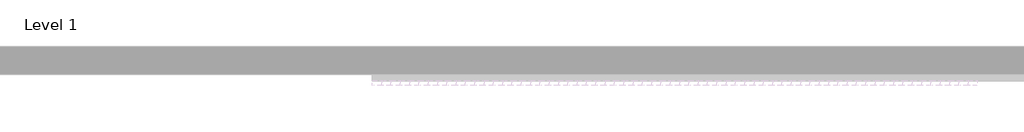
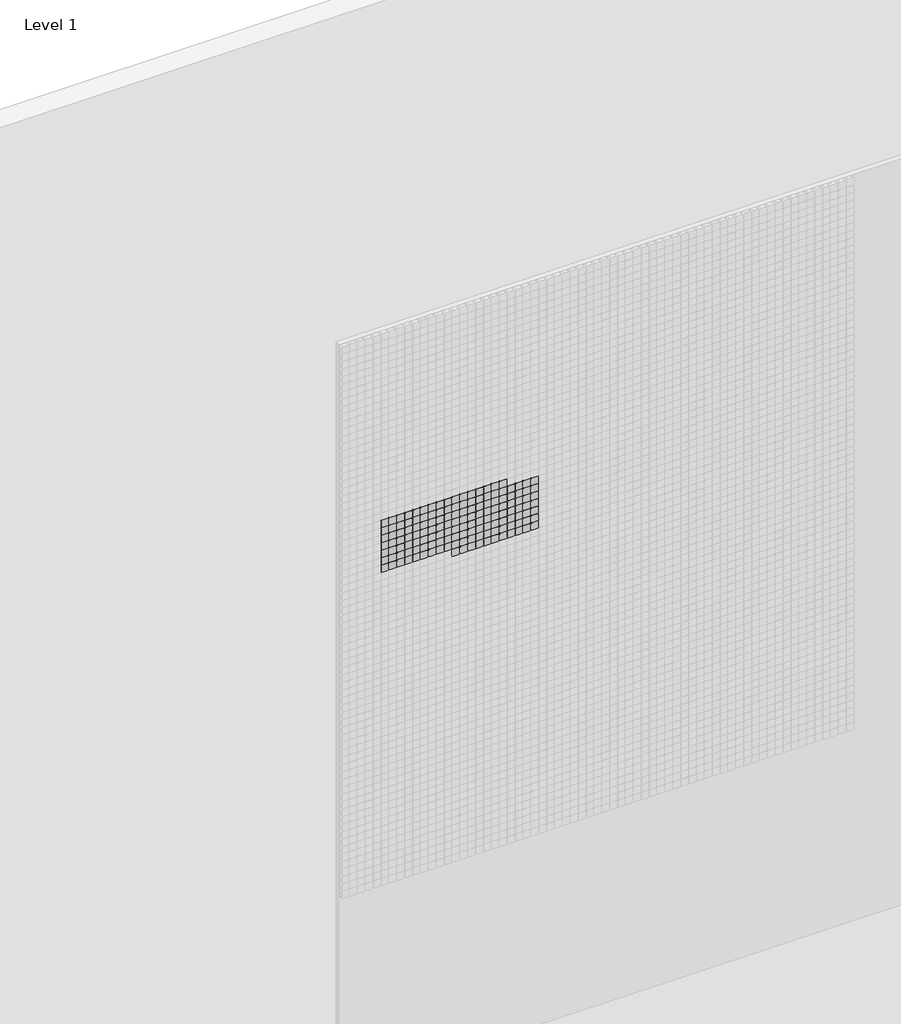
# One storey, part 11 of 71: 147 proxies.
"""IFC4 building model written with IfcOpenShell, lengths in millimetres."""

from ifc_helpers import new_model, si_unit, origin, place, context, project, spatial, transform, mapped, element, save
from components import generic_models_afde289c

model = new_model("IFC4")

# Units and contexts
model_context = context("Model", 3, world=origin())
ifc_project = project(units=[si_unit("LENGTHUNIT", "METRE", prefix="MILLI")], contexts=[model_context])

# Site, building, storey
site = spatial("IfcSite", under=ifc_project)
building = spatial("IfcBuilding", under=site)
storey = spatial("IfcBuildingStorey", under=building, Name="Level 1", Elevation=0.0)

# Proxies
placement = place(None, origin())
generic_models_shape = generic_models_afde289c(model_context)
element("IfcBuildingElementProxy", 1, Name="Pixel_M : Pixel_M", ObjectType="Pixel_M : Pixel_M", at=placement, inside=storey, context=model_context, shape_type="MappedRepresentation", body=[
    mapped(generic_models_shape, transform((5762.4280941, -75.0, 4716.3566215), x_axis=(1.0, 0.0, 0.0), y_axis=(0.0, 0.0, 1.0), z_axis=(0.0, -1.0, 0.0))),
])
element("IfcBuildingElementProxy", 2, Name="Pixel_M : Pixel_M", ObjectType="Pixel_M : Pixel_M", at=placement, inside=storey, context=model_context, shape_type="MappedRepresentation", body=[
    mapped(generic_models_shape, transform((5712.4280941, -75.0, 4716.3566215), x_axis=(1.0, 0.0, 0.0), y_axis=(0.0, 0.0, 1.0), z_axis=(0.0, -1.0, 0.0))),
])
element("IfcBuildingElementProxy", 3, Name="Pixel_M : Pixel_M", ObjectType="Pixel_M : Pixel_M", at=placement, inside=storey, context=model_context, shape_type="MappedRepresentation", body=[
    mapped(generic_models_shape, transform((5662.4280941, -75.0, 4716.3566215), x_axis=(1.0, 0.0, 0.0), y_axis=(0.0, 0.0, 1.0), z_axis=(0.0, -1.0, 0.0))),
])
element("IfcBuildingElementProxy", 4, Name="Pixel_M : Pixel_M", ObjectType="Pixel_M : Pixel_M", at=placement, inside=storey, context=model_context, shape_type="MappedRepresentation", body=[
    mapped(generic_models_shape, transform((5612.4280941, -75.0, 4716.3566215), x_axis=(1.0, 0.0, 0.0), y_axis=(0.0, 0.0, 1.0), z_axis=(0.0, -1.0, 0.0))),
])
element("IfcBuildingElementProxy", 5, Name="Pixel_M : Pixel_M", ObjectType="Pixel_M : Pixel_M", at=placement, inside=storey, context=model_context, shape_type="MappedRepresentation", body=[
    mapped(generic_models_shape, transform((5562.4280941, -75.0, 4716.3566215), x_axis=(1.0, 0.0, 0.0), y_axis=(0.0, 0.0, 1.0), z_axis=(0.0, -1.0, 0.0))),
])
element("IfcBuildingElementProxy", 6, Name="Pixel_M : Pixel_M", ObjectType="Pixel_M : Pixel_M", at=placement, inside=storey, context=model_context, shape_type="MappedRepresentation", body=[
    mapped(generic_models_shape, transform((5512.4280941, -75.0, 4716.3566215), x_axis=(1.0, 0.0, 0.0), y_axis=(0.0, 0.0, 1.0), z_axis=(0.0, -1.0, 0.0))),
])
element("IfcBuildingElementProxy", 7, Name="Pixel_M : Pixel_M", ObjectType="Pixel_M : Pixel_M", at=placement, inside=storey, context=model_context, shape_type="MappedRepresentation", body=[
    mapped(generic_models_shape, transform((5462.4280941, -75.0, 4716.3566215), x_axis=(1.0, 0.0, 0.0), y_axis=(0.0, 0.0, 1.0), z_axis=(0.0, -1.0, 0.0))),
])
element("IfcBuildingElementProxy", 8, Name="Pixel_M : Pixel_M", ObjectType="Pixel_M : Pixel_M", at=placement, inside=storey, context=model_context, shape_type="MappedRepresentation", body=[
    mapped(generic_models_shape, transform((5412.4280941, -75.0, 4716.3566215), x_axis=(1.0, 0.0, 0.0), y_axis=(0.0, 0.0, 1.0), z_axis=(0.0, -1.0, 0.0))),
])
element("IfcBuildingElementProxy", 9, Name="Pixel_M : Pixel_M", ObjectType="Pixel_M : Pixel_M", at=placement, inside=storey, context=model_context, shape_type="MappedRepresentation", body=[
    mapped(generic_models_shape, transform((5362.4280941, -75.0, 4716.3566215), x_axis=(1.0, 0.0, 0.0), y_axis=(0.0, 0.0, 1.0), z_axis=(0.0, -1.0, 0.0))),
])
element("IfcBuildingElementProxy", 10, Name="Pixel_M : Pixel_M", ObjectType="Pixel_M : Pixel_M", at=placement, inside=storey, context=model_context, shape_type="MappedRepresentation", body=[
    mapped(generic_models_shape, transform((5312.4280941, -75.0, 4716.3566215), x_axis=(1.0, 0.0, 0.0), y_axis=(0.0, 0.0, 1.0), z_axis=(0.0, -1.0, 0.0))),
])
element("IfcBuildingElementProxy", 11, Name="Pixel_M : Pixel_M", ObjectType="Pixel_M : Pixel_M", at=placement, inside=storey, context=model_context, shape_type="MappedRepresentation", body=[
    mapped(generic_models_shape, transform((5262.4280941, -75.0, 4716.3566215), x_axis=(1.0, 0.0, 0.0), y_axis=(0.0, 0.0, 1.0), z_axis=(0.0, -1.0, 0.0))),
])
element("IfcBuildingElementProxy", 12, Name="Pixel_M : Pixel_M", ObjectType="Pixel_M : Pixel_M", at=placement, inside=storey, context=model_context, shape_type="MappedRepresentation", body=[
    mapped(generic_models_shape, transform((5212.4280941, -75.0, 4716.3566215), x_axis=(1.0, 0.0, 0.0), y_axis=(0.0, 0.0, 1.0), z_axis=(0.0, -1.0, 0.0))),
])
element("IfcBuildingElementProxy", 13, Name="Pixel_M : Pixel_M", ObjectType="Pixel_M : Pixel_M", at=placement, inside=storey, context=model_context, shape_type="MappedRepresentation", body=[
    mapped(generic_models_shape, transform((5162.4280941, -75.0, 4716.3566215), x_axis=(1.0, 0.0, 0.0), y_axis=(0.0, 0.0, 1.0), z_axis=(0.0, -1.0, 0.0))),
])
element("IfcBuildingElementProxy", 14, Name="Pixel_M : Pixel_M", ObjectType="Pixel_M : Pixel_M", at=placement, inside=storey, context=model_context, shape_type="MappedRepresentation", body=[
    mapped(generic_models_shape, transform((5112.4280941, -75.0, 4716.3566215), x_axis=(1.0, 0.0, 0.0), y_axis=(0.0, 0.0, 1.0), z_axis=(0.0, -1.0, 0.0))),
])
element("IfcBuildingElementProxy", 15, Name="Pixel_M : Pixel_M", ObjectType="Pixel_M : Pixel_M", at=placement, inside=storey, context=model_context, shape_type="MappedRepresentation", body=[
    mapped(generic_models_shape, transform((5062.4280941, -75.0, 4716.3566215), x_axis=(1.0, 0.0, 0.0), y_axis=(0.0, 0.0, 1.0), z_axis=(0.0, -1.0, 0.0))),
])
element("IfcBuildingElementProxy", 16, Name="Pixel_M : Pixel_M", ObjectType="Pixel_M : Pixel_M", at=placement, inside=storey, context=model_context, shape_type="MappedRepresentation", body=[
    mapped(generic_models_shape, transform((5012.4280941, -75.0, 4716.3566215), x_axis=(1.0, 0.0, 0.0), y_axis=(0.0, 0.0, 1.0), z_axis=(0.0, -1.0, 0.0))),
])
element("IfcBuildingElementProxy", 17, Name="Pixel_M : Pixel_M", ObjectType="Pixel_M : Pixel_M", at=placement, inside=storey, context=model_context, shape_type="MappedRepresentation", body=[
    mapped(generic_models_shape, transform((5962.4280941, -75.0, 4666.3566215), x_axis=(1.0, 0.0, 0.0), y_axis=(0.0, 0.0, 1.0), z_axis=(0.0, -1.0, 0.0))),
])
element("IfcBuildingElementProxy", 18, Name="Pixel_M : Pixel_M", ObjectType="Pixel_M : Pixel_M", at=placement, inside=storey, context=model_context, shape_type="MappedRepresentation", body=[
    mapped(generic_models_shape, transform((5912.4280941, -75.0, 4666.3566215), x_axis=(1.0, 0.0, 0.0), y_axis=(0.0, 0.0, 1.0), z_axis=(0.0, -1.0, 0.0))),
])
element("IfcBuildingElementProxy", 19, Name="Pixel_M : Pixel_M", ObjectType="Pixel_M : Pixel_M", at=placement, inside=storey, context=model_context, shape_type="MappedRepresentation", body=[
    mapped(generic_models_shape, transform((5862.4280941, -75.0, 4666.3566215), x_axis=(1.0, 0.0, 0.0), y_axis=(0.0, 0.0, 1.0), z_axis=(0.0, -1.0, 0.0))),
])
element("IfcBuildingElementProxy", 20, Name="Pixel_M : Pixel_M", ObjectType="Pixel_M : Pixel_M", at=placement, inside=storey, context=model_context, shape_type="MappedRepresentation", body=[
    mapped(generic_models_shape, transform((5812.4280941, -75.0, 4666.3566215), x_axis=(1.0, 0.0, 0.0), y_axis=(0.0, 0.0, 1.0), z_axis=(0.0, -1.0, 0.0))),
])
element("IfcBuildingElementProxy", 21, Name="Pixel_M : Pixel_M", ObjectType="Pixel_M : Pixel_M", at=placement, inside=storey, context=model_context, shape_type="MappedRepresentation", body=[
    mapped(generic_models_shape, transform((5762.4280941, -75.0, 4666.3566215), x_axis=(1.0, 0.0, 0.0), y_axis=(0.0, 0.0, 1.0), z_axis=(0.0, -1.0, 0.0))),
])
element("IfcBuildingElementProxy", 22, Name="Pixel_M : Pixel_M", ObjectType="Pixel_M : Pixel_M", at=placement, inside=storey, context=model_context, shape_type="MappedRepresentation", body=[
    mapped(generic_models_shape, transform((5712.4280941, -75.0, 4666.3566215), x_axis=(1.0, 0.0, 0.0), y_axis=(0.0, 0.0, 1.0), z_axis=(0.0, -1.0, 0.0))),
])
element("IfcBuildingElementProxy", 23, Name="Pixel_M : Pixel_M", ObjectType="Pixel_M : Pixel_M", at=placement, inside=storey, context=model_context, shape_type="MappedRepresentation", body=[
    mapped(generic_models_shape, transform((5662.4280941, -75.0, 4666.3566215), x_axis=(1.0, 0.0, 0.0), y_axis=(0.0, 0.0, 1.0), z_axis=(0.0, -1.0, 0.0))),
])
element("IfcBuildingElementProxy", 24, Name="Pixel_M : Pixel_M", ObjectType="Pixel_M : Pixel_M", at=placement, inside=storey, context=model_context, shape_type="MappedRepresentation", body=[
    mapped(generic_models_shape, transform((5612.4280941, -75.0, 4666.3566215), x_axis=(1.0, 0.0, 0.0), y_axis=(0.0, 0.0, 1.0), z_axis=(0.0, -1.0, 0.0))),
])
element("IfcBuildingElementProxy", 25, Name="Pixel_M : Pixel_M", ObjectType="Pixel_M : Pixel_M", at=placement, inside=storey, context=model_context, shape_type="MappedRepresentation", body=[
    mapped(generic_models_shape, transform((5562.4280941, -75.0, 4666.3566215), x_axis=(1.0, 0.0, 0.0), y_axis=(0.0, 0.0, 1.0), z_axis=(0.0, -1.0, 0.0))),
])
element("IfcBuildingElementProxy", 26, Name="Pixel_M : Pixel_M", ObjectType="Pixel_M : Pixel_M", at=placement, inside=storey, context=model_context, shape_type="MappedRepresentation", body=[
    mapped(generic_models_shape, transform((5512.4280941, -75.0, 4666.3566215), x_axis=(1.0, 0.0, 0.0), y_axis=(0.0, 0.0, 1.0), z_axis=(0.0, -1.0, 0.0))),
])
element("IfcBuildingElementProxy", 27, Name="Pixel_M : Pixel_M", ObjectType="Pixel_M : Pixel_M", at=placement, inside=storey, context=model_context, shape_type="MappedRepresentation", body=[
    mapped(generic_models_shape, transform((5462.4280941, -75.0, 4666.3566215), x_axis=(1.0, 0.0, 0.0), y_axis=(0.0, 0.0, 1.0), z_axis=(0.0, -1.0, 0.0))),
])
element("IfcBuildingElementProxy", 28, Name="Pixel_M : Pixel_M", ObjectType="Pixel_M : Pixel_M", at=placement, inside=storey, context=model_context, shape_type="MappedRepresentation", body=[
    mapped(generic_models_shape, transform((5412.4280941, -75.0, 4666.3566215), x_axis=(1.0, 0.0, 0.0), y_axis=(0.0, 0.0, 1.0), z_axis=(0.0, -1.0, 0.0))),
])
element("IfcBuildingElementProxy", 29, Name="Pixel_M : Pixel_M", ObjectType="Pixel_M : Pixel_M", at=placement, inside=storey, context=model_context, shape_type="MappedRepresentation", body=[
    mapped(generic_models_shape, transform((5362.4280941, -75.0, 4666.3566215), x_axis=(1.0, 0.0, 0.0), y_axis=(0.0, 0.0, 1.0), z_axis=(0.0, -1.0, 0.0))),
])
element("IfcBuildingElementProxy", 30, Name="Pixel_M : Pixel_M", ObjectType="Pixel_M : Pixel_M", at=placement, inside=storey, context=model_context, shape_type="MappedRepresentation", body=[
    mapped(generic_models_shape, transform((5312.4280941, -75.0, 4666.3566215), x_axis=(1.0, 0.0, 0.0), y_axis=(0.0, 0.0, 1.0), z_axis=(0.0, -1.0, 0.0))),
])
element("IfcBuildingElementProxy", 31, Name="Pixel_M : Pixel_M", ObjectType="Pixel_M : Pixel_M", at=placement, inside=storey, context=model_context, shape_type="MappedRepresentation", body=[
    mapped(generic_models_shape, transform((5262.4280941, -75.0, 4666.3566215), x_axis=(1.0, 0.0, 0.0), y_axis=(0.0, 0.0, 1.0), z_axis=(0.0, -1.0, 0.0))),
])
element("IfcBuildingElementProxy", 32, Name="Pixel_M : Pixel_M", ObjectType="Pixel_M : Pixel_M", at=placement, inside=storey, context=model_context, shape_type="MappedRepresentation", body=[
    mapped(generic_models_shape, transform((5212.4280941, -75.0, 4666.3566215), x_axis=(1.0, 0.0, 0.0), y_axis=(0.0, 0.0, 1.0), z_axis=(0.0, -1.0, 0.0))),
])
element("IfcBuildingElementProxy", 33, Name="Pixel_M : Pixel_M", ObjectType="Pixel_M : Pixel_M", at=placement, inside=storey, context=model_context, shape_type="MappedRepresentation", body=[
    mapped(generic_models_shape, transform((5162.4280941, -75.0, 4666.3566215), x_axis=(1.0, 0.0, 0.0), y_axis=(0.0, 0.0, 1.0), z_axis=(0.0, -1.0, 0.0))),
])
element("IfcBuildingElementProxy", 34, Name="Pixel_M : Pixel_M", ObjectType="Pixel_M : Pixel_M", at=placement, inside=storey, context=model_context, shape_type="MappedRepresentation", body=[
    mapped(generic_models_shape, transform((5112.4280941, -75.0, 4666.3566215), x_axis=(1.0, 0.0, 0.0), y_axis=(0.0, 0.0, 1.0), z_axis=(0.0, -1.0, 0.0))),
])
element("IfcBuildingElementProxy", 35, Name="Pixel_M : Pixel_M", ObjectType="Pixel_M : Pixel_M", at=placement, inside=storey, context=model_context, shape_type="MappedRepresentation", body=[
    mapped(generic_models_shape, transform((5062.4280941, -75.0, 4666.3566215), x_axis=(1.0, 0.0, 0.0), y_axis=(0.0, 0.0, 1.0), z_axis=(0.0, -1.0, 0.0))),
])
element("IfcBuildingElementProxy", 36, Name="Pixel_M : Pixel_M", ObjectType="Pixel_M : Pixel_M", at=placement, inside=storey, context=model_context, shape_type="MappedRepresentation", body=[
    mapped(generic_models_shape, transform((5012.4280941, -75.0, 4666.3566215), x_axis=(1.0, 0.0, 0.0), y_axis=(0.0, 0.0, 1.0), z_axis=(0.0, -1.0, 0.0))),
])
element("IfcBuildingElementProxy", 37, Name="Pixel_M : Pixel_M", ObjectType="Pixel_M : Pixel_M", at=placement, inside=storey, context=model_context, shape_type="MappedRepresentation", body=[
    mapped(generic_models_shape, transform((5962.4280941, -75.0, 4616.3566215), x_axis=(1.0, 0.0, 0.0), y_axis=(0.0, 0.0, 1.0), z_axis=(0.0, -1.0, 0.0))),
])
element("IfcBuildingElementProxy", 38, Name="Pixel_M : Pixel_M", ObjectType="Pixel_M : Pixel_M", at=placement, inside=storey, context=model_context, shape_type="MappedRepresentation", body=[
    mapped(generic_models_shape, transform((5912.4280941, -75.0, 4616.3566215), x_axis=(1.0, 0.0, 0.0), y_axis=(0.0, 0.0, 1.0), z_axis=(0.0, -1.0, 0.0))),
])
element("IfcBuildingElementProxy", 39, Name="Pixel_M : Pixel_M", ObjectType="Pixel_M : Pixel_M", at=placement, inside=storey, context=model_context, shape_type="MappedRepresentation", body=[
    mapped(generic_models_shape, transform((5862.4280941, -75.0, 4616.3566215), x_axis=(1.0, 0.0, 0.0), y_axis=(0.0, 0.0, 1.0), z_axis=(0.0, -1.0, 0.0))),
])
element("IfcBuildingElementProxy", 40, Name="Pixel_M : Pixel_M", ObjectType="Pixel_M : Pixel_M", at=placement, inside=storey, context=model_context, shape_type="MappedRepresentation", body=[
    mapped(generic_models_shape, transform((5812.4280941, -75.0, 4616.3566215), x_axis=(1.0, 0.0, 0.0), y_axis=(0.0, 0.0, 1.0), z_axis=(0.0, -1.0, 0.0))),
])
element("IfcBuildingElementProxy", 41, Name="Pixel_M : Pixel_M", ObjectType="Pixel_M : Pixel_M", at=placement, inside=storey, context=model_context, shape_type="MappedRepresentation", body=[
    mapped(generic_models_shape, transform((5762.4280941, -75.0, 4616.3566215), x_axis=(1.0, 0.0, 0.0), y_axis=(0.0, 0.0, 1.0), z_axis=(0.0, -1.0, 0.0))),
])
element("IfcBuildingElementProxy", 42, Name="Pixel_M : Pixel_M", ObjectType="Pixel_M : Pixel_M", at=placement, inside=storey, context=model_context, shape_type="MappedRepresentation", body=[
    mapped(generic_models_shape, transform((5712.4280941, -75.0, 4616.3566215), x_axis=(1.0, 0.0, 0.0), y_axis=(0.0, 0.0, 1.0), z_axis=(0.0, -1.0, 0.0))),
])
element("IfcBuildingElementProxy", 43, Name="Pixel_M : Pixel_M", ObjectType="Pixel_M : Pixel_M", at=placement, inside=storey, context=model_context, shape_type="MappedRepresentation", body=[
    mapped(generic_models_shape, transform((5662.4280941, -75.0, 4616.3566215), x_axis=(1.0, 0.0, 0.0), y_axis=(0.0, 0.0, 1.0), z_axis=(0.0, -1.0, 0.0))),
])
element("IfcBuildingElementProxy", 44, Name="Pixel_M : Pixel_M", ObjectType="Pixel_M : Pixel_M", at=placement, inside=storey, context=model_context, shape_type="MappedRepresentation", body=[
    mapped(generic_models_shape, transform((5612.4280941, -75.0, 4616.3566215), x_axis=(1.0, 0.0, 0.0), y_axis=(0.0, 0.0, 1.0), z_axis=(0.0, -1.0, 0.0))),
])
element("IfcBuildingElementProxy", 45, Name="Pixel_M : Pixel_M", ObjectType="Pixel_M : Pixel_M", at=placement, inside=storey, context=model_context, shape_type="MappedRepresentation", body=[
    mapped(generic_models_shape, transform((5562.4280941, -75.0, 4616.3566215), x_axis=(1.0, 0.0, 0.0), y_axis=(0.0, 0.0, 1.0), z_axis=(0.0, -1.0, 0.0))),
])
element("IfcBuildingElementProxy", 46, Name="Pixel_M : Pixel_M", ObjectType="Pixel_M : Pixel_M", at=placement, inside=storey, context=model_context, shape_type="MappedRepresentation", body=[
    mapped(generic_models_shape, transform((5512.4280941, -75.0, 4616.3566215), x_axis=(1.0, 0.0, 0.0), y_axis=(0.0, 0.0, 1.0), z_axis=(0.0, -1.0, 0.0))),
])
element("IfcBuildingElementProxy", 47, Name="Pixel_M : Pixel_M", ObjectType="Pixel_M : Pixel_M", at=placement, inside=storey, context=model_context, shape_type="MappedRepresentation", body=[
    mapped(generic_models_shape, transform((5462.4280941, -75.0, 4616.3566215), x_axis=(1.0, 0.0, 0.0), y_axis=(0.0, 0.0, 1.0), z_axis=(0.0, -1.0, 0.0))),
])
element("IfcBuildingElementProxy", 48, Name="Pixel_M : Pixel_M", ObjectType="Pixel_M : Pixel_M", at=placement, inside=storey, context=model_context, shape_type="MappedRepresentation", body=[
    mapped(generic_models_shape, transform((5412.4280941, -75.0, 4616.3566215), x_axis=(1.0, 0.0, 0.0), y_axis=(0.0, 0.0, 1.0), z_axis=(0.0, -1.0, 0.0))),
])
element("IfcBuildingElementProxy", 49, Name="Pixel_M : Pixel_M", ObjectType="Pixel_M : Pixel_M", at=placement, inside=storey, context=model_context, shape_type="MappedRepresentation", body=[
    mapped(generic_models_shape, transform((5362.4280941, -75.0, 4616.3566215), x_axis=(1.0, 0.0, 0.0), y_axis=(0.0, 0.0, 1.0), z_axis=(0.0, -1.0, 0.0))),
])
element("IfcBuildingElementProxy", 50, Name="Pixel_M : Pixel_M", ObjectType="Pixel_M : Pixel_M", at=placement, inside=storey, context=model_context, shape_type="MappedRepresentation", body=[
    mapped(generic_models_shape, transform((5312.4280941, -75.0, 4616.3566215), x_axis=(1.0, 0.0, 0.0), y_axis=(0.0, 0.0, 1.0), z_axis=(0.0, -1.0, 0.0))),
])
element("IfcBuildingElementProxy", 51, Name="Pixel_M : Pixel_M", ObjectType="Pixel_M : Pixel_M", at=placement, inside=storey, context=model_context, shape_type="MappedRepresentation", body=[
    mapped(generic_models_shape, transform((5262.4280941, -75.0, 4616.3566215), x_axis=(1.0, 0.0, 0.0), y_axis=(0.0, 0.0, 1.0), z_axis=(0.0, -1.0, 0.0))),
])
element("IfcBuildingElementProxy", 52, Name="Pixel_M : Pixel_M", ObjectType="Pixel_M : Pixel_M", at=placement, inside=storey, context=model_context, shape_type="MappedRepresentation", body=[
    mapped(generic_models_shape, transform((5212.4280941, -75.0, 4616.3566215), x_axis=(1.0, 0.0, 0.0), y_axis=(0.0, 0.0, 1.0), z_axis=(0.0, -1.0, 0.0))),
])
element("IfcBuildingElementProxy", 53, Name="Pixel_M : Pixel_M", ObjectType="Pixel_M : Pixel_M", at=placement, inside=storey, context=model_context, shape_type="MappedRepresentation", body=[
    mapped(generic_models_shape, transform((5162.4280941, -75.0, 4616.3566215), x_axis=(1.0, 0.0, 0.0), y_axis=(0.0, 0.0, 1.0), z_axis=(0.0, -1.0, 0.0))),
])
element("IfcBuildingElementProxy", 54, Name="Pixel_M : Pixel_M", ObjectType="Pixel_M : Pixel_M", at=placement, inside=storey, context=model_context, shape_type="MappedRepresentation", body=[
    mapped(generic_models_shape, transform((5112.4280941, -75.0, 4616.3566215), x_axis=(1.0, 0.0, 0.0), y_axis=(0.0, 0.0, 1.0), z_axis=(0.0, -1.0, 0.0))),
])
element("IfcBuildingElementProxy", 55, Name="Pixel_M : Pixel_M", ObjectType="Pixel_M : Pixel_M", at=placement, inside=storey, context=model_context, shape_type="MappedRepresentation", body=[
    mapped(generic_models_shape, transform((5062.4280941, -75.0, 4616.3566215), x_axis=(1.0, 0.0, 0.0), y_axis=(0.0, 0.0, 1.0), z_axis=(0.0, -1.0, 0.0))),
])
element("IfcBuildingElementProxy", 56, Name="Pixel_M : Pixel_M", ObjectType="Pixel_M : Pixel_M", at=placement, inside=storey, context=model_context, shape_type="MappedRepresentation", body=[
    mapped(generic_models_shape, transform((5012.4280941, -75.0, 4616.3566215), x_axis=(1.0, 0.0, 0.0), y_axis=(0.0, 0.0, 1.0), z_axis=(0.0, -1.0, 0.0))),
])
element("IfcBuildingElementProxy", 57, Name="Pixel_M : Pixel_M", ObjectType="Pixel_M : Pixel_M", at=placement, inside=storey, context=model_context, shape_type="MappedRepresentation", body=[
    mapped(generic_models_shape, transform((5962.4280941, -75.0, 4566.3566215), x_axis=(1.0, 0.0, 0.0), y_axis=(0.0, 0.0, 1.0), z_axis=(0.0, -1.0, 0.0))),
])
element("IfcBuildingElementProxy", 58, Name="Pixel_M : Pixel_M", ObjectType="Pixel_M : Pixel_M", at=placement, inside=storey, context=model_context, shape_type="MappedRepresentation", body=[
    mapped(generic_models_shape, transform((5912.4280941, -75.0, 4566.3566215), x_axis=(1.0, 0.0, 0.0), y_axis=(0.0, 0.0, 1.0), z_axis=(0.0, -1.0, 0.0))),
])
element("IfcBuildingElementProxy", 59, Name="Pixel_M : Pixel_M", ObjectType="Pixel_M : Pixel_M", at=placement, inside=storey, context=model_context, shape_type="MappedRepresentation", body=[
    mapped(generic_models_shape, transform((5862.4280941, -75.0, 4566.3566215), x_axis=(1.0, 0.0, 0.0), y_axis=(0.0, 0.0, 1.0), z_axis=(0.0, -1.0, 0.0))),
])
element("IfcBuildingElementProxy", 60, Name="Pixel_M : Pixel_M", ObjectType="Pixel_M : Pixel_M", at=placement, inside=storey, context=model_context, shape_type="MappedRepresentation", body=[
    mapped(generic_models_shape, transform((5812.4280941, -75.0, 4566.3566215), x_axis=(1.0, 0.0, 0.0), y_axis=(0.0, 0.0, 1.0), z_axis=(0.0, -1.0, 0.0))),
])
element("IfcBuildingElementProxy", 61, Name="Pixel_M : Pixel_M", ObjectType="Pixel_M : Pixel_M", at=placement, inside=storey, context=model_context, shape_type="MappedRepresentation", body=[
    mapped(generic_models_shape, transform((5762.4280941, -75.0, 4566.3566215), x_axis=(1.0, 0.0, 0.0), y_axis=(0.0, 0.0, 1.0), z_axis=(0.0, -1.0, 0.0))),
])
element("IfcBuildingElementProxy", 62, Name="Pixel_M : Pixel_M", ObjectType="Pixel_M : Pixel_M", at=placement, inside=storey, context=model_context, shape_type="MappedRepresentation", body=[
    mapped(generic_models_shape, transform((5712.4280941, -75.0, 4566.3566215), x_axis=(1.0, 0.0, 0.0), y_axis=(0.0, 0.0, 1.0), z_axis=(0.0, -1.0, 0.0))),
])
element("IfcBuildingElementProxy", 63, Name="Pixel_M : Pixel_M", ObjectType="Pixel_M : Pixel_M", at=placement, inside=storey, context=model_context, shape_type="MappedRepresentation", body=[
    mapped(generic_models_shape, transform((5662.4280941, -75.0, 4566.3566215), x_axis=(1.0, 0.0, 0.0), y_axis=(0.0, 0.0, 1.0), z_axis=(0.0, -1.0, 0.0))),
])
element("IfcBuildingElementProxy", 64, Name="Pixel_M : Pixel_M", ObjectType="Pixel_M : Pixel_M", at=placement, inside=storey, context=model_context, shape_type="MappedRepresentation", body=[
    mapped(generic_models_shape, transform((5612.4280941, -75.0, 4566.3566215), x_axis=(1.0, 0.0, 0.0), y_axis=(0.0, 0.0, 1.0), z_axis=(0.0, -1.0, 0.0))),
])
element("IfcBuildingElementProxy", 65, Name="Pixel_M : Pixel_M", ObjectType="Pixel_M : Pixel_M", at=placement, inside=storey, context=model_context, shape_type="MappedRepresentation", body=[
    mapped(generic_models_shape, transform((5562.4280941, -75.0, 4566.3566215), x_axis=(1.0, 0.0, 0.0), y_axis=(0.0, 0.0, 1.0), z_axis=(0.0, -1.0, 0.0))),
])
element("IfcBuildingElementProxy", 66, Name="Pixel_M : Pixel_M", ObjectType="Pixel_M : Pixel_M", at=placement, inside=storey, context=model_context, shape_type="MappedRepresentation", body=[
    mapped(generic_models_shape, transform((5512.4280941, -75.0, 4566.3566215), x_axis=(1.0, 0.0, 0.0), y_axis=(0.0, 0.0, 1.0), z_axis=(0.0, -1.0, 0.0))),
])
element("IfcBuildingElementProxy", 67, Name="Pixel_M : Pixel_M", ObjectType="Pixel_M : Pixel_M", at=placement, inside=storey, context=model_context, shape_type="MappedRepresentation", body=[
    mapped(generic_models_shape, transform((5462.4280941, -75.0, 4566.3566215), x_axis=(1.0, 0.0, 0.0), y_axis=(0.0, 0.0, 1.0), z_axis=(0.0, -1.0, 0.0))),
])
element("IfcBuildingElementProxy", 68, Name="Pixel_M : Pixel_M", ObjectType="Pixel_M : Pixel_M", at=placement, inside=storey, context=model_context, shape_type="MappedRepresentation", body=[
    mapped(generic_models_shape, transform((5412.4280941, -75.0, 4566.3566215), x_axis=(1.0, 0.0, 0.0), y_axis=(0.0, 0.0, 1.0), z_axis=(0.0, -1.0, 0.0))),
])
element("IfcBuildingElementProxy", 69, Name="Pixel_M : Pixel_M", ObjectType="Pixel_M : Pixel_M", at=placement, inside=storey, context=model_context, shape_type="MappedRepresentation", body=[
    mapped(generic_models_shape, transform((5362.4280941, -75.0, 4566.3566215), x_axis=(1.0, 0.0, 0.0), y_axis=(0.0, 0.0, 1.0), z_axis=(0.0, -1.0, 0.0))),
])
element("IfcBuildingElementProxy", 70, Name="Pixel_M : Pixel_M", ObjectType="Pixel_M : Pixel_M", at=placement, inside=storey, context=model_context, shape_type="MappedRepresentation", body=[
    mapped(generic_models_shape, transform((5312.4280941, -75.0, 4566.3566215), x_axis=(1.0, 0.0, 0.0), y_axis=(0.0, 0.0, 1.0), z_axis=(0.0, -1.0, 0.0))),
])
element("IfcBuildingElementProxy", 71, Name="Pixel_M : Pixel_M", ObjectType="Pixel_M : Pixel_M", at=placement, inside=storey, context=model_context, shape_type="MappedRepresentation", body=[
    mapped(generic_models_shape, transform((5262.4280941, -75.0, 4566.3566215), x_axis=(1.0, 0.0, 0.0), y_axis=(0.0, 0.0, 1.0), z_axis=(0.0, -1.0, 0.0))),
])
element("IfcBuildingElementProxy", 72, Name="Pixel_M : Pixel_M", ObjectType="Pixel_M : Pixel_M", at=placement, inside=storey, context=model_context, shape_type="MappedRepresentation", body=[
    mapped(generic_models_shape, transform((5212.4280941, -75.0, 4566.3566215), x_axis=(1.0, 0.0, 0.0), y_axis=(0.0, 0.0, 1.0), z_axis=(0.0, -1.0, 0.0))),
])
element("IfcBuildingElementProxy", 73, Name="Pixel_M : Pixel_M", ObjectType="Pixel_M : Pixel_M", at=placement, inside=storey, context=model_context, shape_type="MappedRepresentation", body=[
    mapped(generic_models_shape, transform((5162.4280941, -75.0, 4566.3566215), x_axis=(1.0, 0.0, 0.0), y_axis=(0.0, 0.0, 1.0), z_axis=(0.0, -1.0, 0.0))),
])
element("IfcBuildingElementProxy", 74, Name="Pixel_M : Pixel_M", ObjectType="Pixel_M : Pixel_M", at=placement, inside=storey, context=model_context, shape_type="MappedRepresentation", body=[
    mapped(generic_models_shape, transform((5112.4280941, -75.0, 4566.3566215), x_axis=(1.0, 0.0, 0.0), y_axis=(0.0, 0.0, 1.0), z_axis=(0.0, -1.0, 0.0))),
])
element("IfcBuildingElementProxy", 75, Name="Pixel_M : Pixel_M", ObjectType="Pixel_M : Pixel_M", at=placement, inside=storey, context=model_context, shape_type="MappedRepresentation", body=[
    mapped(generic_models_shape, transform((5062.4280941, -75.0, 4566.3566215), x_axis=(1.0, 0.0, 0.0), y_axis=(0.0, 0.0, 1.0), z_axis=(0.0, -1.0, 0.0))),
])
element("IfcBuildingElementProxy", 76, Name="Pixel_M : Pixel_M", ObjectType="Pixel_M : Pixel_M", at=placement, inside=storey, context=model_context, shape_type="MappedRepresentation", body=[
    mapped(generic_models_shape, transform((5012.4280941, -75.0, 4566.3566215), x_axis=(1.0, 0.0, 0.0), y_axis=(0.0, 0.0, 1.0), z_axis=(0.0, -1.0, 0.0))),
])
element("IfcBuildingElementProxy", 77, Name="Pixel_M : Pixel_M", ObjectType="Pixel_M : Pixel_M", at=placement, inside=storey, context=model_context, shape_type="MappedRepresentation", body=[
    mapped(generic_models_shape, transform((5962.4280941, -75.0, 4516.3566215), x_axis=(1.0, 0.0, 0.0), y_axis=(0.0, 0.0, 1.0), z_axis=(0.0, -1.0, 0.0))),
])
element("IfcBuildingElementProxy", 78, Name="Pixel_M : Pixel_M", ObjectType="Pixel_M : Pixel_M", at=placement, inside=storey, context=model_context, shape_type="MappedRepresentation", body=[
    mapped(generic_models_shape, transform((5912.4280941, -75.0, 4516.3566215), x_axis=(1.0, 0.0, 0.0), y_axis=(0.0, 0.0, 1.0), z_axis=(0.0, -1.0, 0.0))),
])
element("IfcBuildingElementProxy", 79, Name="Pixel_M : Pixel_M", ObjectType="Pixel_M : Pixel_M", at=placement, inside=storey, context=model_context, shape_type="MappedRepresentation", body=[
    mapped(generic_models_shape, transform((5862.4280941, -75.0, 4516.3566215), x_axis=(1.0, 0.0, 0.0), y_axis=(0.0, 0.0, 1.0), z_axis=(0.0, -1.0, 0.0))),
])
element("IfcBuildingElementProxy", 80, Name="Pixel_M : Pixel_M", ObjectType="Pixel_M : Pixel_M", at=placement, inside=storey, context=model_context, shape_type="MappedRepresentation", body=[
    mapped(generic_models_shape, transform((5812.4280941, -75.0, 4516.3566215), x_axis=(1.0, 0.0, 0.0), y_axis=(0.0, 0.0, 1.0), z_axis=(0.0, -1.0, 0.0))),
])
element("IfcBuildingElementProxy", 81, Name="Pixel_M : Pixel_M", ObjectType="Pixel_M : Pixel_M", at=placement, inside=storey, context=model_context, shape_type="MappedRepresentation", body=[
    mapped(generic_models_shape, transform((5762.4280941, -75.0, 4516.3566215), x_axis=(1.0, 0.0, 0.0), y_axis=(0.0, 0.0, 1.0), z_axis=(0.0, -1.0, 0.0))),
])
element("IfcBuildingElementProxy", 82, Name="Pixel_M : Pixel_M", ObjectType="Pixel_M : Pixel_M", at=placement, inside=storey, context=model_context, shape_type="MappedRepresentation", body=[
    mapped(generic_models_shape, transform((5712.4280941, -75.0, 4516.3566215), x_axis=(1.0, 0.0, 0.0), y_axis=(0.0, 0.0, 1.0), z_axis=(0.0, -1.0, 0.0))),
])
element("IfcBuildingElementProxy", 83, Name="Pixel_M : Pixel_M", ObjectType="Pixel_M : Pixel_M", at=placement, inside=storey, context=model_context, shape_type="MappedRepresentation", body=[
    mapped(generic_models_shape, transform((5662.4280941, -75.0, 4516.3566215), x_axis=(1.0, 0.0, 0.0), y_axis=(0.0, 0.0, 1.0), z_axis=(0.0, -1.0, 0.0))),
])
element("IfcBuildingElementProxy", 84, Name="Pixel_M : Pixel_M", ObjectType="Pixel_M : Pixel_M", at=placement, inside=storey, context=model_context, shape_type="MappedRepresentation", body=[
    mapped(generic_models_shape, transform((5612.4280941, -75.0, 4516.3566215), x_axis=(1.0, 0.0, 0.0), y_axis=(0.0, 0.0, 1.0), z_axis=(0.0, -1.0, 0.0))),
])
element("IfcBuildingElementProxy", 85, Name="Pixel_M : Pixel_M", ObjectType="Pixel_M : Pixel_M", at=placement, inside=storey, context=model_context, shape_type="MappedRepresentation", body=[
    mapped(generic_models_shape, transform((5562.4280941, -75.0, 4516.3566215), x_axis=(1.0, 0.0, 0.0), y_axis=(0.0, 0.0, 1.0), z_axis=(0.0, -1.0, 0.0))),
])
element("IfcBuildingElementProxy", 86, Name="Pixel_M : Pixel_M", ObjectType="Pixel_M : Pixel_M", at=placement, inside=storey, context=model_context, shape_type="MappedRepresentation", body=[
    mapped(generic_models_shape, transform((5512.4280941, -75.0, 4516.3566215), x_axis=(1.0, 0.0, 0.0), y_axis=(0.0, 0.0, 1.0), z_axis=(0.0, -1.0, 0.0))),
])
element("IfcBuildingElementProxy", 87, Name="Pixel_M : Pixel_M", ObjectType="Pixel_M : Pixel_M", at=placement, inside=storey, context=model_context, shape_type="MappedRepresentation", body=[
    mapped(generic_models_shape, transform((5462.4280941, -75.0, 4516.3566215), x_axis=(1.0, 0.0, 0.0), y_axis=(0.0, 0.0, 1.0), z_axis=(0.0, -1.0, 0.0))),
])
element("IfcBuildingElementProxy", 88, Name="Pixel_M : Pixel_M", ObjectType="Pixel_M : Pixel_M", at=placement, inside=storey, context=model_context, shape_type="MappedRepresentation", body=[
    mapped(generic_models_shape, transform((5412.4280941, -75.0, 4516.3566215), x_axis=(1.0, 0.0, 0.0), y_axis=(0.0, 0.0, 1.0), z_axis=(0.0, -1.0, 0.0))),
])
element("IfcBuildingElementProxy", 89, Name="Pixel_M : Pixel_M", ObjectType="Pixel_M : Pixel_M", at=placement, inside=storey, context=model_context, shape_type="MappedRepresentation", body=[
    mapped(generic_models_shape, transform((5362.4280941, -75.0, 4516.3566215), x_axis=(1.0, 0.0, 0.0), y_axis=(0.0, 0.0, 1.0), z_axis=(0.0, -1.0, 0.0))),
])
element("IfcBuildingElementProxy", 90, Name="Pixel_M : Pixel_M", ObjectType="Pixel_M : Pixel_M", at=placement, inside=storey, context=model_context, shape_type="MappedRepresentation", body=[
    mapped(generic_models_shape, transform((5312.4280941, -75.0, 4516.3566215), x_axis=(1.0, 0.0, 0.0), y_axis=(0.0, 0.0, 1.0), z_axis=(0.0, -1.0, 0.0))),
])
element("IfcBuildingElementProxy", 91, Name="Pixel_M : Pixel_M", ObjectType="Pixel_M : Pixel_M", at=placement, inside=storey, context=model_context, shape_type="MappedRepresentation", body=[
    mapped(generic_models_shape, transform((5262.4280941, -75.0, 4516.3566215), x_axis=(1.0, 0.0, 0.0), y_axis=(0.0, 0.0, 1.0), z_axis=(0.0, -1.0, 0.0))),
])
element("IfcBuildingElementProxy", 92, Name="Pixel_M : Pixel_M", ObjectType="Pixel_M : Pixel_M", at=placement, inside=storey, context=model_context, shape_type="MappedRepresentation", body=[
    mapped(generic_models_shape, transform((5212.4280941, -75.0, 4516.3566215), x_axis=(1.0, 0.0, 0.0), y_axis=(0.0, 0.0, 1.0), z_axis=(0.0, -1.0, 0.0))),
])
element("IfcBuildingElementProxy", 93, Name="Pixel_M : Pixel_M", ObjectType="Pixel_M : Pixel_M", at=placement, inside=storey, context=model_context, shape_type="MappedRepresentation", body=[
    mapped(generic_models_shape, transform((5162.4280941, -75.0, 4516.3566215), x_axis=(1.0, 0.0, 0.0), y_axis=(0.0, 0.0, 1.0), z_axis=(0.0, -1.0, 0.0))),
])
element("IfcBuildingElementProxy", 94, Name="Pixel_M : Pixel_M", ObjectType="Pixel_M : Pixel_M", at=placement, inside=storey, context=model_context, shape_type="MappedRepresentation", body=[
    mapped(generic_models_shape, transform((5112.4280941, -75.0, 4516.3566215), x_axis=(1.0, 0.0, 0.0), y_axis=(0.0, 0.0, 1.0), z_axis=(0.0, -1.0, 0.0))),
])
element("IfcBuildingElementProxy", 95, Name="Pixel_M : Pixel_M", ObjectType="Pixel_M : Pixel_M", at=placement, inside=storey, context=model_context, shape_type="MappedRepresentation", body=[
    mapped(generic_models_shape, transform((5062.4280941, -75.0, 4516.3566215), x_axis=(1.0, 0.0, 0.0), y_axis=(0.0, 0.0, 1.0), z_axis=(0.0, -1.0, 0.0))),
])
element("IfcBuildingElementProxy", 96, Name="Pixel_M : Pixel_M", ObjectType="Pixel_M : Pixel_M", at=placement, inside=storey, context=model_context, shape_type="MappedRepresentation", body=[
    mapped(generic_models_shape, transform((5012.4280941, -75.0, 4516.3566215), x_axis=(1.0, 0.0, 0.0), y_axis=(0.0, 0.0, 1.0), z_axis=(0.0, -1.0, 0.0))),
])
element("IfcBuildingElementProxy", 97, Name="Pixel_M : Pixel_M", ObjectType="Pixel_M : Pixel_M", at=placement, inside=storey, context=model_context, shape_type="MappedRepresentation", body=[
    mapped(generic_models_shape, transform((5962.4280941, -75.0, 4466.3566215), x_axis=(1.0, 0.0, 0.0), y_axis=(0.0, 0.0, 1.0), z_axis=(0.0, -1.0, 0.0))),
])
element("IfcBuildingElementProxy", 98, Name="Pixel_M : Pixel_M", ObjectType="Pixel_M : Pixel_M", at=placement, inside=storey, context=model_context, shape_type="MappedRepresentation", body=[
    mapped(generic_models_shape, transform((5912.4280941, -75.0, 4466.3566215), x_axis=(1.0, 0.0, 0.0), y_axis=(0.0, 0.0, 1.0), z_axis=(0.0, -1.0, 0.0))),
])
element("IfcBuildingElementProxy", 99, Name="Pixel_M : Pixel_M", ObjectType="Pixel_M : Pixel_M", at=placement, inside=storey, context=model_context, shape_type="MappedRepresentation", body=[
    mapped(generic_models_shape, transform((5862.4280941, -75.0, 4466.3566215), x_axis=(1.0, 0.0, 0.0), y_axis=(0.0, 0.0, 1.0), z_axis=(0.0, -1.0, 0.0))),
])
element("IfcBuildingElementProxy", 100, Name="Pixel_M : Pixel_M", ObjectType="Pixel_M : Pixel_M", at=placement, inside=storey, context=model_context, shape_type="MappedRepresentation", body=[
    mapped(generic_models_shape, transform((5812.4280941, -75.0, 4466.3566215), x_axis=(1.0, 0.0, 0.0), y_axis=(0.0, 0.0, 1.0), z_axis=(0.0, -1.0, 0.0))),
])
element("IfcBuildingElementProxy", 101, Name="Pixel_M : Pixel_M", ObjectType="Pixel_M : Pixel_M", at=placement, inside=storey, context=model_context, shape_type="MappedRepresentation", body=[
    mapped(generic_models_shape, transform((5762.4280941, -75.0, 4466.3566215), x_axis=(1.0, 0.0, 0.0), y_axis=(0.0, 0.0, 1.0), z_axis=(0.0, -1.0, 0.0))),
])
element("IfcBuildingElementProxy", 102, Name="Pixel_M : Pixel_M", ObjectType="Pixel_M : Pixel_M", at=placement, inside=storey, context=model_context, shape_type="MappedRepresentation", body=[
    mapped(generic_models_shape, transform((5712.4280941, -75.0, 4466.3566215), x_axis=(1.0, 0.0, 0.0), y_axis=(0.0, 0.0, 1.0), z_axis=(0.0, -1.0, 0.0))),
])
element("IfcBuildingElementProxy", 103, Name="Pixel_M : Pixel_M", ObjectType="Pixel_M : Pixel_M", at=placement, inside=storey, context=model_context, shape_type="MappedRepresentation", body=[
    mapped(generic_models_shape, transform((5662.4280941, -75.0, 4466.3566215), x_axis=(1.0, 0.0, 0.0), y_axis=(0.0, 0.0, 1.0), z_axis=(0.0, -1.0, 0.0))),
])
element("IfcBuildingElementProxy", 104, Name="Pixel_M : Pixel_M", ObjectType="Pixel_M : Pixel_M", at=placement, inside=storey, context=model_context, shape_type="MappedRepresentation", body=[
    mapped(generic_models_shape, transform((5612.4280941, -75.0, 4466.3566215), x_axis=(1.0, 0.0, 0.0), y_axis=(0.0, 0.0, 1.0), z_axis=(0.0, -1.0, 0.0))),
])
element("IfcBuildingElementProxy", 105, Name="Pixel_M : Pixel_M", ObjectType="Pixel_M : Pixel_M", at=placement, inside=storey, context=model_context, shape_type="MappedRepresentation", body=[
    mapped(generic_models_shape, transform((5562.4280941, -75.0, 4466.3566215), x_axis=(1.0, 0.0, 0.0), y_axis=(0.0, 0.0, 1.0), z_axis=(0.0, -1.0, 0.0))),
])
element("IfcBuildingElementProxy", 106, Name="Pixel_M : Pixel_M", ObjectType="Pixel_M : Pixel_M", at=placement, inside=storey, context=model_context, shape_type="MappedRepresentation", body=[
    mapped(generic_models_shape, transform((5512.4280941, -75.0, 4466.3566215), x_axis=(1.0, 0.0, 0.0), y_axis=(0.0, 0.0, 1.0), z_axis=(0.0, -1.0, 0.0))),
])
element("IfcBuildingElementProxy", 107, Name="Pixel_M : Pixel_M", ObjectType="Pixel_M : Pixel_M", at=placement, inside=storey, context=model_context, shape_type="MappedRepresentation", body=[
    mapped(generic_models_shape, transform((5462.4280941, -75.0, 4466.3566215), x_axis=(1.0, 0.0, 0.0), y_axis=(0.0, 0.0, 1.0), z_axis=(0.0, -1.0, 0.0))),
])
element("IfcBuildingElementProxy", 108, Name="Pixel_M : Pixel_M", ObjectType="Pixel_M : Pixel_M", at=placement, inside=storey, context=model_context, shape_type="MappedRepresentation", body=[
    mapped(generic_models_shape, transform((5412.4280941, -75.0, 4466.3566215), x_axis=(1.0, 0.0, 0.0), y_axis=(0.0, 0.0, 1.0), z_axis=(0.0, -1.0, 0.0))),
])
element("IfcBuildingElementProxy", 109, Name="Pixel_M : Pixel_M", ObjectType="Pixel_M : Pixel_M", at=placement, inside=storey, context=model_context, shape_type="MappedRepresentation", body=[
    mapped(generic_models_shape, transform((5362.4280941, -75.0, 4466.3566215), x_axis=(1.0, 0.0, 0.0), y_axis=(0.0, 0.0, 1.0), z_axis=(0.0, -1.0, 0.0))),
])
element("IfcBuildingElementProxy", 110, Name="Pixel_M : Pixel_M", ObjectType="Pixel_M : Pixel_M", at=placement, inside=storey, context=model_context, shape_type="MappedRepresentation", body=[
    mapped(generic_models_shape, transform((5312.4280941, -75.0, 4466.3566215), x_axis=(1.0, 0.0, 0.0), y_axis=(0.0, 0.0, 1.0), z_axis=(0.0, -1.0, 0.0))),
])
element("IfcBuildingElementProxy", 111, Name="Pixel_M : Pixel_M", ObjectType="Pixel_M : Pixel_M", at=placement, inside=storey, context=model_context, shape_type="MappedRepresentation", body=[
    mapped(generic_models_shape, transform((5262.4280941, -75.0, 4466.3566215), x_axis=(1.0, 0.0, 0.0), y_axis=(0.0, 0.0, 1.0), z_axis=(0.0, -1.0, 0.0))),
])
element("IfcBuildingElementProxy", 112, Name="Pixel_M : Pixel_M", ObjectType="Pixel_M : Pixel_M", at=placement, inside=storey, context=model_context, shape_type="MappedRepresentation", body=[
    mapped(generic_models_shape, transform((5212.4280941, -75.0, 4466.3566215), x_axis=(1.0, 0.0, 0.0), y_axis=(0.0, 0.0, 1.0), z_axis=(0.0, -1.0, 0.0))),
])
element("IfcBuildingElementProxy", 113, Name="Pixel_M : Pixel_M", ObjectType="Pixel_M : Pixel_M", at=placement, inside=storey, context=model_context, shape_type="MappedRepresentation", body=[
    mapped(generic_models_shape, transform((5162.4280941, -75.0, 4466.3566215), x_axis=(1.0, 0.0, 0.0), y_axis=(0.0, 0.0, 1.0), z_axis=(0.0, -1.0, 0.0))),
])
element("IfcBuildingElementProxy", 114, Name="Pixel_M : Pixel_M", ObjectType="Pixel_M : Pixel_M", at=placement, inside=storey, context=model_context, shape_type="MappedRepresentation", body=[
    mapped(generic_models_shape, transform((5112.4280941, -75.0, 4466.3566215), x_axis=(1.0, 0.0, 0.0), y_axis=(0.0, 0.0, 1.0), z_axis=(0.0, -1.0, 0.0))),
])
element("IfcBuildingElementProxy", 115, Name="Pixel_M : Pixel_M", ObjectType="Pixel_M : Pixel_M", at=placement, inside=storey, context=model_context, shape_type="MappedRepresentation", body=[
    mapped(generic_models_shape, transform((5062.4280941, -75.0, 4466.3566215), x_axis=(1.0, 0.0, 0.0), y_axis=(0.0, 0.0, 1.0), z_axis=(0.0, -1.0, 0.0))),
])
element("IfcBuildingElementProxy", 116, Name="Pixel_M : Pixel_M", ObjectType="Pixel_M : Pixel_M", at=placement, inside=storey, context=model_context, shape_type="MappedRepresentation", body=[
    mapped(generic_models_shape, transform((5012.4280941, -75.0, 4466.3566215), x_axis=(1.0, 0.0, 0.0), y_axis=(0.0, 0.0, 1.0), z_axis=(0.0, -1.0, 0.0))),
])
element("IfcBuildingElementProxy", 117, Name="Pixel_M : Pixel_M", ObjectType="Pixel_M : Pixel_M", at=placement, inside=storey, context=model_context, shape_type="MappedRepresentation", body=[
    mapped(generic_models_shape, transform((5962.4280941, -75.0, 4416.3566215), x_axis=(1.0, 0.0, 0.0), y_axis=(0.0, 0.0, 1.0), z_axis=(0.0, -1.0, 0.0))),
])
element("IfcBuildingElementProxy", 118, Name="Pixel_M : Pixel_M", ObjectType="Pixel_M : Pixel_M", at=placement, inside=storey, context=model_context, shape_type="MappedRepresentation", body=[
    mapped(generic_models_shape, transform((5912.4280941, -75.0, 4416.3566215), x_axis=(1.0, 0.0, 0.0), y_axis=(0.0, 0.0, 1.0), z_axis=(0.0, -1.0, 0.0))),
])
element("IfcBuildingElementProxy", 119, Name="Pixel_M : Pixel_M", ObjectType="Pixel_M : Pixel_M", at=placement, inside=storey, context=model_context, shape_type="MappedRepresentation", body=[
    mapped(generic_models_shape, transform((5862.4280941, -75.0, 4416.3566215), x_axis=(1.0, 0.0, 0.0), y_axis=(0.0, 0.0, 1.0), z_axis=(0.0, -1.0, 0.0))),
])
element("IfcBuildingElementProxy", 120, Name="Pixel_M : Pixel_M", ObjectType="Pixel_M : Pixel_M", at=placement, inside=storey, context=model_context, shape_type="MappedRepresentation", body=[
    mapped(generic_models_shape, transform((5812.4280941, -75.0, 4416.3566215), x_axis=(1.0, 0.0, 0.0), y_axis=(0.0, 0.0, 1.0), z_axis=(0.0, -1.0, 0.0))),
])
element("IfcBuildingElementProxy", 121, Name="Pixel_M : Pixel_M", ObjectType="Pixel_M : Pixel_M", at=placement, inside=storey, context=model_context, shape_type="MappedRepresentation", body=[
    mapped(generic_models_shape, transform((5762.4280941, -75.0, 4416.3566215), x_axis=(1.0, 0.0, 0.0), y_axis=(0.0, 0.0, 1.0), z_axis=(0.0, -1.0, 0.0))),
])
element("IfcBuildingElementProxy", 122, Name="Pixel_M : Pixel_M", ObjectType="Pixel_M : Pixel_M", at=placement, inside=storey, context=model_context, shape_type="MappedRepresentation", body=[
    mapped(generic_models_shape, transform((5712.4280941, -75.0, 4416.3566215), x_axis=(1.0, 0.0, 0.0), y_axis=(0.0, 0.0, 1.0), z_axis=(0.0, -1.0, 0.0))),
])
element("IfcBuildingElementProxy", 123, Name="Pixel_M : Pixel_M", ObjectType="Pixel_M : Pixel_M", at=placement, inside=storey, context=model_context, shape_type="MappedRepresentation", body=[
    mapped(generic_models_shape, transform((5662.4280941, -75.0, 4416.3566215), x_axis=(1.0, 0.0, 0.0), y_axis=(0.0, 0.0, 1.0), z_axis=(0.0, -1.0, 0.0))),
])
element("IfcBuildingElementProxy", 124, Name="Pixel_M : Pixel_M", ObjectType="Pixel_M : Pixel_M", at=placement, inside=storey, context=model_context, shape_type="MappedRepresentation", body=[
    mapped(generic_models_shape, transform((5612.4280941, -75.0, 4416.3566215), x_axis=(1.0, 0.0, 0.0), y_axis=(0.0, 0.0, 1.0), z_axis=(0.0, -1.0, 0.0))),
])
element("IfcBuildingElementProxy", 125, Name="Pixel_M : Pixel_M", ObjectType="Pixel_M : Pixel_M", at=placement, inside=storey, context=model_context, shape_type="MappedRepresentation", body=[
    mapped(generic_models_shape, transform((5562.4280941, -75.0, 4416.3566215), x_axis=(1.0, 0.0, 0.0), y_axis=(0.0, 0.0, 1.0), z_axis=(0.0, -1.0, 0.0))),
])
element("IfcBuildingElementProxy", 126, Name="Pixel_M : Pixel_M", ObjectType="Pixel_M : Pixel_M", at=placement, inside=storey, context=model_context, shape_type="MappedRepresentation", body=[
    mapped(generic_models_shape, transform((5512.4280941, -75.0, 4416.3566215), x_axis=(1.0, 0.0, 0.0), y_axis=(0.0, 0.0, 1.0), z_axis=(0.0, -1.0, 0.0))),
])
element("IfcBuildingElementProxy", 127, Name="Pixel_M : Pixel_M", ObjectType="Pixel_M : Pixel_M", at=placement, inside=storey, context=model_context, shape_type="MappedRepresentation", body=[
    mapped(generic_models_shape, transform((5462.4280941, -75.0, 4416.3566215), x_axis=(1.0, 0.0, 0.0), y_axis=(0.0, 0.0, 1.0), z_axis=(0.0, -1.0, 0.0))),
])
element("IfcBuildingElementProxy", 128, Name="Pixel_M : Pixel_M", ObjectType="Pixel_M : Pixel_M", at=placement, inside=storey, context=model_context, shape_type="MappedRepresentation", body=[
    mapped(generic_models_shape, transform((5412.4280941, -75.0, 4416.3566215), x_axis=(1.0, 0.0, 0.0), y_axis=(0.0, 0.0, 1.0), z_axis=(0.0, -1.0, 0.0))),
])
element("IfcBuildingElementProxy", 129, Name="Pixel_M : Pixel_M", ObjectType="Pixel_M : Pixel_M", at=placement, inside=storey, context=model_context, shape_type="MappedRepresentation", body=[
    mapped(generic_models_shape, transform((5362.4280941, -75.0, 4416.3566215), x_axis=(1.0, 0.0, 0.0), y_axis=(0.0, 0.0, 1.0), z_axis=(0.0, -1.0, 0.0))),
])
element("IfcBuildingElementProxy", 130, Name="Pixel_M : Pixel_M", ObjectType="Pixel_M : Pixel_M", at=placement, inside=storey, context=model_context, shape_type="MappedRepresentation", body=[
    mapped(generic_models_shape, transform((5312.4280941, -75.0, 4416.3566215), x_axis=(1.0, 0.0, 0.0), y_axis=(0.0, 0.0, 1.0), z_axis=(0.0, -1.0, 0.0))),
])
element("IfcBuildingElementProxy", 131, Name="Pixel_M : Pixel_M", ObjectType="Pixel_M : Pixel_M", at=placement, inside=storey, context=model_context, shape_type="MappedRepresentation", body=[
    mapped(generic_models_shape, transform((5262.4280941, -75.0, 4416.3566215), x_axis=(1.0, 0.0, 0.0), y_axis=(0.0, 0.0, 1.0), z_axis=(0.0, -1.0, 0.0))),
])
element("IfcBuildingElementProxy", 132, Name="Pixel_M : Pixel_M", ObjectType="Pixel_M : Pixel_M", at=placement, inside=storey, context=model_context, shape_type="MappedRepresentation", body=[
    mapped(generic_models_shape, transform((5212.4280941, -75.0, 4416.3566215), x_axis=(1.0, 0.0, 0.0), y_axis=(0.0, 0.0, 1.0), z_axis=(0.0, -1.0, 0.0))),
])
element("IfcBuildingElementProxy", 133, Name="Pixel_M : Pixel_M", ObjectType="Pixel_M : Pixel_M", at=placement, inside=storey, context=model_context, shape_type="MappedRepresentation", body=[
    mapped(generic_models_shape, transform((5162.4280941, -75.0, 4416.3566215), x_axis=(1.0, 0.0, 0.0), y_axis=(0.0, 0.0, 1.0), z_axis=(0.0, -1.0, 0.0))),
])
element("IfcBuildingElementProxy", 134, Name="Pixel_M : Pixel_M", ObjectType="Pixel_M : Pixel_M", at=placement, inside=storey, context=model_context, shape_type="MappedRepresentation", body=[
    mapped(generic_models_shape, transform((5112.4280941, -75.0, 4416.3566215), x_axis=(1.0, 0.0, 0.0), y_axis=(0.0, 0.0, 1.0), z_axis=(0.0, -1.0, 0.0))),
])
element("IfcBuildingElementProxy", 135, Name="Pixel_M : Pixel_M", ObjectType="Pixel_M : Pixel_M", at=placement, inside=storey, context=model_context, shape_type="MappedRepresentation", body=[
    mapped(generic_models_shape, transform((5062.4280941, -75.0, 4416.3566215), x_axis=(1.0, 0.0, 0.0), y_axis=(0.0, 0.0, 1.0), z_axis=(0.0, -1.0, 0.0))),
])
element("IfcBuildingElementProxy", 136, Name="Pixel_M : Pixel_M", ObjectType="Pixel_M : Pixel_M", at=placement, inside=storey, context=model_context, shape_type="MappedRepresentation", body=[
    mapped(generic_models_shape, transform((5012.4280941, -75.0, 4416.3566215), x_axis=(1.0, 0.0, 0.0), y_axis=(0.0, 0.0, 1.0), z_axis=(0.0, -1.0, 0.0))),
])
element("IfcBuildingElementProxy", 137, Name="Pixel_M : Pixel_M", ObjectType="Pixel_M : Pixel_M", at=placement, inside=storey, context=model_context, shape_type="MappedRepresentation", body=[
    mapped(generic_models_shape, transform((5962.4280941, -75.0, 4366.3566215), x_axis=(1.0, 0.0, 0.0), y_axis=(0.0, 0.0, 1.0), z_axis=(0.0, -1.0, 0.0))),
])
element("IfcBuildingElementProxy", 138, Name="Pixel_M : Pixel_M", ObjectType="Pixel_M : Pixel_M", at=placement, inside=storey, context=model_context, shape_type="MappedRepresentation", body=[
    mapped(generic_models_shape, transform((5912.4280941, -75.0, 4366.3566215), x_axis=(1.0, 0.0, 0.0), y_axis=(0.0, 0.0, 1.0), z_axis=(0.0, -1.0, 0.0))),
])
element("IfcBuildingElementProxy", 139, Name="Pixel_M : Pixel_M", ObjectType="Pixel_M : Pixel_M", at=placement, inside=storey, context=model_context, shape_type="MappedRepresentation", body=[
    mapped(generic_models_shape, transform((5862.4280941, -75.0, 4366.3566215), x_axis=(1.0, 0.0, 0.0), y_axis=(0.0, 0.0, 1.0), z_axis=(0.0, -1.0, 0.0))),
])
element("IfcBuildingElementProxy", 140, Name="Pixel_M : Pixel_M", ObjectType="Pixel_M : Pixel_M", at=placement, inside=storey, context=model_context, shape_type="MappedRepresentation", body=[
    mapped(generic_models_shape, transform((5812.4280941, -75.0, 4366.3566215), x_axis=(1.0, 0.0, 0.0), y_axis=(0.0, 0.0, 1.0), z_axis=(0.0, -1.0, 0.0))),
])
element("IfcBuildingElementProxy", 141, Name="Pixel_M : Pixel_M", ObjectType="Pixel_M : Pixel_M", at=placement, inside=storey, context=model_context, shape_type="MappedRepresentation", body=[
    mapped(generic_models_shape, transform((5762.4280941, -75.0, 4366.3566215), x_axis=(1.0, 0.0, 0.0), y_axis=(0.0, 0.0, 1.0), z_axis=(0.0, -1.0, 0.0))),
])
element("IfcBuildingElementProxy", 142, Name="Pixel_M : Pixel_M", ObjectType="Pixel_M : Pixel_M", at=placement, inside=storey, context=model_context, shape_type="MappedRepresentation", body=[
    mapped(generic_models_shape, transform((5712.4280941, -75.0, 4366.3566215), x_axis=(1.0, 0.0, 0.0), y_axis=(0.0, 0.0, 1.0), z_axis=(0.0, -1.0, 0.0))),
])
element("IfcBuildingElementProxy", 143, Name="Pixel_M : Pixel_M", ObjectType="Pixel_M : Pixel_M", at=placement, inside=storey, context=model_context, shape_type="MappedRepresentation", body=[
    mapped(generic_models_shape, transform((5662.4280941, -75.0, 4366.3566215), x_axis=(1.0, 0.0, 0.0), y_axis=(0.0, 0.0, 1.0), z_axis=(0.0, -1.0, 0.0))),
])
element("IfcBuildingElementProxy", 144, Name="Pixel_M : Pixel_M", ObjectType="Pixel_M : Pixel_M", at=placement, inside=storey, context=model_context, shape_type="MappedRepresentation", body=[
    mapped(generic_models_shape, transform((5612.4280941, -75.0, 4366.3566215), x_axis=(1.0, 0.0, 0.0), y_axis=(0.0, 0.0, 1.0), z_axis=(0.0, -1.0, 0.0))),
])
element("IfcBuildingElementProxy", 145, Name="Pixel_M : Pixel_M", ObjectType="Pixel_M : Pixel_M", at=placement, inside=storey, context=model_context, shape_type="MappedRepresentation", body=[
    mapped(generic_models_shape, transform((5562.4280941, -75.0, 4366.3566215), x_axis=(1.0, 0.0, 0.0), y_axis=(0.0, 0.0, 1.0), z_axis=(0.0, -1.0, 0.0))),
])
element("IfcBuildingElementProxy", 146, Name="Pixel_M : Pixel_M", ObjectType="Pixel_M : Pixel_M", at=placement, inside=storey, context=model_context, shape_type="MappedRepresentation", body=[
    mapped(generic_models_shape, transform((5512.4280941, -75.0, 4366.3566215), x_axis=(1.0, 0.0, 0.0), y_axis=(0.0, 0.0, 1.0), z_axis=(0.0, -1.0, 0.0))),
])
element("IfcBuildingElementProxy", 147, Name="Pixel_M : Pixel_M", ObjectType="Pixel_M : Pixel_M", at=placement, inside=storey, context=model_context, shape_type="MappedRepresentation", body=[
    mapped(generic_models_shape, transform((5462.4280941, -75.0, 4366.3566215), x_axis=(1.0, 0.0, 0.0), y_axis=(0.0, 0.0, 1.0), z_axis=(0.0, -1.0, 0.0))),
])

save(model, "model.ifc")
